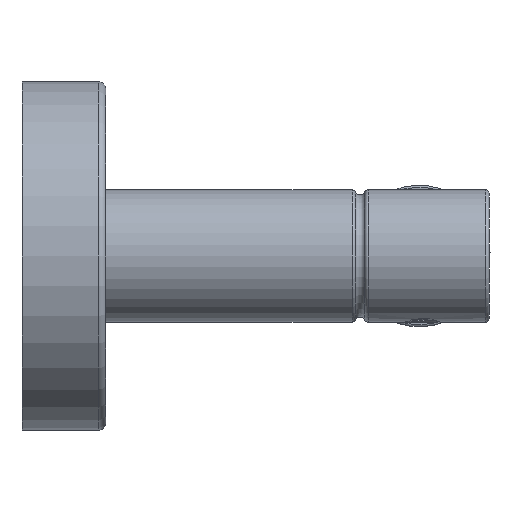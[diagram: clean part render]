
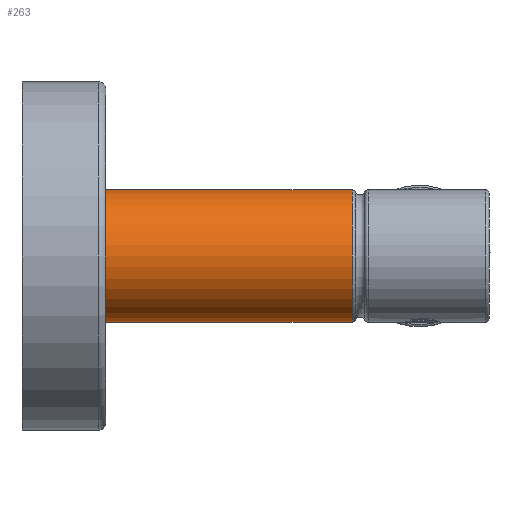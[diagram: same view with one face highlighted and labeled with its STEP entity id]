
A CAD part, front view. The second image highlights one B-rep face of the part: STEP entity #263.
In plain terms, the highlighted cylindrical face has radius 9.5 mm (diameter 19 mm), a full revolution.
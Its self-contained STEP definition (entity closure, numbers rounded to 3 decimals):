
#263=ADVANCED_FACE('',(#323,#324),#301,.T.);
#301=CYLINDRICAL_SURFACE('',#734,9.5);
#323=FACE_BOUND('',#368,.T.);
#324=FACE_BOUND('',#369,.T.);
#368=EDGE_LOOP('',(#434));
#369=EDGE_LOOP('',(#435));
#434=ORIENTED_EDGE('',*,*,#629,.T.);
#435=ORIENTED_EDGE('',*,*,#628,.T.);
#572=VERTEX_POINT('',#1359);
#573=VERTEX_POINT('',#1362);
#628=EDGE_CURVE('',#572,#572,#696,.T.);
#629=EDGE_CURVE('',#573,#573,#697,.T.);
#696=CIRCLE('',#731,9.5);
#697=CIRCLE('',#733,9.5);
#731=AXIS2_PLACEMENT_3D('',#1358,#820,#821);
#733=AXIS2_PLACEMENT_3D('',#1361,#824,#825);
#734=AXIS2_PLACEMENT_3D('',#1363,#826,#827);
#820=DIRECTION('',(1.,0.,0.));
#821=DIRECTION('',(0.,0.,1.));
#824=DIRECTION('',(-1.,0.,0.));
#825=DIRECTION('',(0.,0.,1.));
#826=DIRECTION('',(-1.,0.,0.));
#827=DIRECTION('',(0.,0.,1.));
#1358=CARTESIAN_POINT('',(0.,0.,0.));
#1359=CARTESIAN_POINT('',(0.,0.,9.5));
#1361=CARTESIAN_POINT('',(35.354,0.,0.));
#1362=CARTESIAN_POINT('',(35.354,0.,9.5));
#1363=CARTESIAN_POINT('',(55.,0.,0.));
